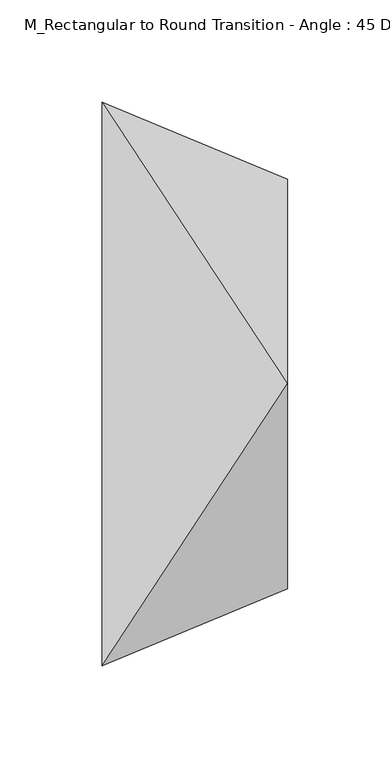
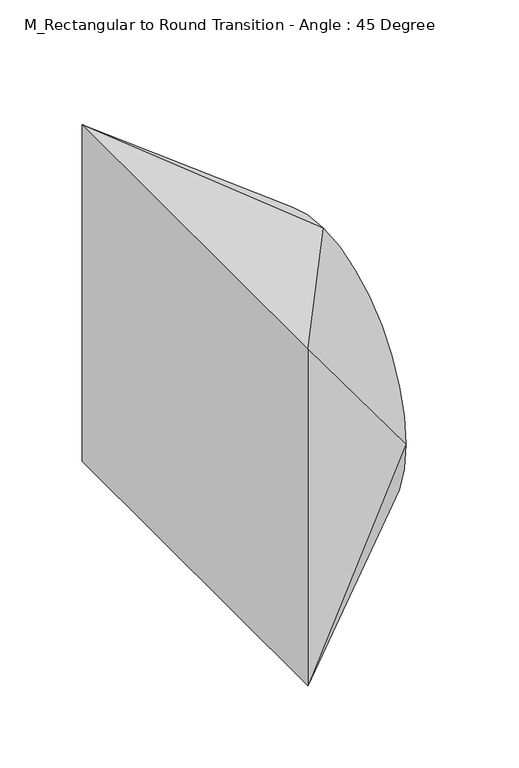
"""IFC4 building model written with IfcOpenShell, lengths in millimetres: duct fitting geometry, M_Rectangular to Round Transition - Angle : 45 Degree."""

from ifc_helpers import new_model, si_unit, frame, origin, place, context, project, spatial, circle_curve, source, transform, mapped, element, save
from ifc_brep_helpers import plane_surface, spline_surface, advanced_brep


def m_rectangular_to_round_transition_angle_45_degree_fab4045a(model_context):
    return source(origin(), model_context, "Body", "AdvancedBrep", [
        advanced_brep(
        [(0.0, -137.5, -125.0), (0.0, -137.5, 125.0), (0.0, 137.5, 125.0), (0.0, 137.5, -125.0), (90.5330086, -100.0, 0.0), (90.5330086, 0.0, -100.0), (90.5330086, 100.0, 0.0), (90.5330086, 0.0, 100.0)],
        [
            (0, 1),
            (1, 2),
            (2, 3),
            (3, 0),
            (4, 5, circle_curve(frame((90.5330086, 0.0, 0.0), z_axis=(1.0, 0.0, 0.0), x_axis=(0.0, -1.0, 0.0)), 100.0)),
            (5, 6, circle_curve(frame((90.5330086, 0.0, 0.0), z_axis=(1.0, 0.0, 0.0), x_axis=(0.0, -1.0, 0.0)), 100.0)),
            (6, 7, circle_curve(frame((90.5330086, 0.0, 0.0), z_axis=(1.0, 0.0, 0.0), x_axis=(0.0, -1.0, 0.0)), 100.0)),
            (7, 4, circle_curve(frame((90.5330086, 0.0, 0.0), z_axis=(1.0, 0.0, 0.0), x_axis=(0.0, -1.0, 0.0)), 100.0)),
            (0, 4),
            (4, 1),
            (7, 1),
            (7, 2),
            (6, 2),
            (6, 3),
            (5, 3),
            (5, 0),
        ],
        [
            plane_surface(frame((0.0, 0.0, 0.0), z_axis=(-1.0, 0.0, 0.0), x_axis=(0.0, 1.0, 0.0))),
            plane_surface(frame((90.5330086, 0.0, 0.0), z_axis=(1.0, 0.0, 0.0), x_axis=(0.0, 1.0, 0.0))),
            plane_surface(frame((90.5330086, -100.0, 0.0), z_axis=(0.3826834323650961, -0.9238795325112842, 0.0), x_axis=(0.0, 0.0, 1.0))),
            spline_surface(2, 1, [[(90.5330086, -100.0, 0.0), (0.0, -137.5, 125.0)], [(90.5330086, -100.0, 100.0), (0.0, -137.5, 125.0)], [(90.5330086, 0.0, 100.0), (0.0, -137.5, 125.0)]], [3, 3], [2, 2], [0.0, 1.0], [0.0, 1.0], weights=[[1.0, 1.0], [0.7071067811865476, 0.7071067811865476], [1.0, 1.0]]),
            plane_surface(frame((90.5330086, 0.0, 100.0), z_axis=(0.2661800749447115, 0.0, 0.9639233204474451), x_axis=(0.0, 1.0, 0.0))),
            spline_surface(2, 1, [[(90.5330086, 0.0, 100.0), (0.0, 137.5, 125.0)], [(90.5330086, 100.0, 100.0), (0.0, 137.5, 125.0)], [(90.5330086, 100.0, 0.0), (0.0, 137.5, 125.0)]], [3, 3], [2, 2], [0.0, 1.0], [0.0, 1.0], weights=[[1.0, 1.0], [0.7071067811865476, 0.7071067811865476], [1.0, 1.0]]),
            plane_surface(frame((90.5330086, 100.0, 0.0), z_axis=(0.38268343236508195, 0.9238795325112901, 0.0), x_axis=(0.0, 0.0, -1.0))),
            spline_surface(2, 1, [[(90.5330086, 100.0, 0.0), (0.0, 137.5, -125.0)], [(90.5330086, 100.0, -100.0), (0.0, 137.5, -125.0)], [(90.5330086, 0.0, -100.0), (0.0, 137.5, -125.0)]], [3, 3], [2, 2], [0.0, 1.0], [0.0, 1.0], weights=[[1.0, 1.0], [0.7071067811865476, 0.7071067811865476], [1.0, 1.0]]),
            plane_surface(frame((90.5330086, 0.0, -100.0), z_axis=(0.26618007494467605, 0.0, -0.9639233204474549), x_axis=(0.0, -1.0, 0.0))),
            spline_surface(2, 1, [[(90.5330086, 0.0, -100.0), (0.0, -137.5, -125.0)], [(90.5330086, -100.0, -100.0), (0.0, -137.5, -125.0)], [(90.5330086, -100.0, 0.0), (0.0, -137.5, -125.0)]], [3, 3], [2, 2], [0.0, 1.0], [0.0, 1.0], weights=[[1.0, 1.0], [0.7071067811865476, 0.7071067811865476], [1.0, 1.0]]),
        ],
        [
            (0, [[1, 2, 3, 4]]),
            (1, [[5, 6, 7, 8]]),
            (2, [[-1, 9, 10]]),
            (3, [[-8, 11, -10]]),
            (4, [[-2, -11, 12]]),
            (5, [[-7, 13, -12]]),
            (6, [[-3, -13, 14]]),
            (7, [[-6, 15, -14]]),
            (8, [[-4, -15, 16]]),
            (9, [[-5, -9, -16]]),
        ],
    ),
        advanced_brep(
        [(0.0, -137.5, -125.0), (0.0, -137.5, 125.0), (0.0, 137.5, 125.0), (0.0, 137.5, -125.0), (90.5330086, -100.0, 0.0), (90.5330086, 0.0, -100.0), (90.5330086, 100.0, 0.0), (90.5330086, 0.0, 100.0)],
        [
            (0, 1),
            (1, 2),
            (2, 3),
            (3, 0),
            (4, 5, circle_curve(frame((90.5330086, 0.0, 0.0), z_axis=(1.0, 0.0, 0.0), x_axis=(0.0, -1.0, 0.0)), 100.0)),
            (5, 6, circle_curve(frame((90.5330086, 0.0, 0.0), z_axis=(1.0, 0.0, 0.0), x_axis=(0.0, -1.0, 0.0)), 100.0)),
            (6, 7, circle_curve(frame((90.5330086, 0.0, 0.0), z_axis=(1.0, 0.0, 0.0), x_axis=(0.0, -1.0, 0.0)), 100.0)),
            (7, 4, circle_curve(frame((90.5330086, 0.0, 0.0), z_axis=(1.0, 0.0, 0.0), x_axis=(0.0, -1.0, 0.0)), 100.0)),
            (0, 4),
            (4, 1),
            (7, 1),
            (7, 2),
            (6, 2),
            (6, 3),
            (5, 3),
            (5, 0),
        ],
        [
            plane_surface(frame((0.0, 0.0, 0.0), z_axis=(-1.0, 0.0, 0.0), x_axis=(0.0, 1.0, 0.0))),
            plane_surface(frame((90.5330086, 0.0, 0.0), z_axis=(1.0, 0.0, 0.0), x_axis=(0.0, 1.0, 0.0))),
            plane_surface(frame((90.5330086, -100.0, 0.0), z_axis=(0.382683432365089, -0.9238795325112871, 0.0), x_axis=(0.0, 0.0, 1.0))),
            spline_surface(2, 1, [[(90.5330086, -100.0, 0.0), (0.0, -137.5, 125.0)], [(90.5330086, -100.0, 100.0), (0.0, -137.5, 125.0)], [(90.5330086, 0.0, 100.0), (0.0, -137.5, 125.0)]], [3, 3], [2, 2], [0.0, 1.0], [0.0, 1.0], weights=[[1.0, 1.0], [0.7071067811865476, 0.7071067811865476], [1.0, 1.0]]),
            plane_surface(frame((90.5330086, 0.0, 100.0), z_axis=(0.2661800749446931, 0.0, 0.9639233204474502), x_axis=(0.0, 1.0, 0.0))),
            spline_surface(2, 1, [[(90.5330086, 0.0, 100.0), (0.0, 137.5, 125.0)], [(90.5330086, 100.0, 100.0), (0.0, 137.5, 125.0)], [(90.5330086, 100.0, 0.0), (0.0, 137.5, 125.0)]], [3, 3], [2, 2], [0.0, 1.0], [0.0, 1.0], weights=[[1.0, 1.0], [0.7071067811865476, 0.7071067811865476], [1.0, 1.0]]),
            plane_surface(frame((90.5330086, 100.0, 0.0), z_axis=(0.38268343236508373, 0.9238795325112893, 0.0), x_axis=(0.0, 0.0, -1.0))),
            spline_surface(2, 1, [[(90.5330086, 100.0, 0.0), (0.0, 137.5, -125.0)], [(90.5330086, 100.0, -100.0), (0.0, 137.5, -125.0)], [(90.5330086, 0.0, -100.0), (0.0, 137.5, -125.0)]], [3, 3], [2, 2], [0.0, 1.0], [0.0, 1.0], weights=[[1.0, 1.0], [0.7071067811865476, 0.7071067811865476], [1.0, 1.0]]),
            plane_surface(frame((90.5330086, 0.0, -100.0), z_axis=(0.2661800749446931, 0.0, -0.9639233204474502), x_axis=(0.0, -1.0, 0.0))),
            spline_surface(2, 1, [[(90.5330086, 0.0, -100.0), (0.0, -137.5, -125.0)], [(90.5330086, -100.0, -100.0), (0.0, -137.5, -125.0)], [(90.5330086, -100.0, 0.0), (0.0, -137.5, -125.0)]], [3, 3], [2, 2], [0.0, 1.0], [0.0, 1.0], weights=[[1.0, 1.0], [0.7071067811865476, 0.7071067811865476], [1.0, 1.0]]),
        ],
        [
            (0, [[1, 2, 3, 4]]),
            (1, [[5, 6, 7, 8]]),
            (2, [[-1, 9, 10]]),
            (3, [[-8, 11, -10]]),
            (4, [[-2, -11, 12]]),
            (5, [[-7, 13, -12]]),
            (6, [[-3, -13, 14]]),
            (7, [[-6, 15, -14]]),
            (8, [[-4, -15, 16]]),
            (9, [[-5, -9, -16]]),
        ],
    ),
        advanced_brep(
        [(90.5330086, 0.0, 100.0), (90.5330086, -100.0, 0.0), (90.5330086, 0.0, -100.0), (90.5330086, 100.0, 0.0), (0.0, -137.5, 125.0), (0.0, 137.5, 125.0), (0.0, 137.5, -125.0), (0.0, -137.5, -125.0)],
        [
            (0, 1, circle_curve(frame((90.5330086, 0.0, 0.0), z_axis=(1.0, 0.0, 0.0), x_axis=(0.0, 1.0, 0.0)), 100.0)),
            (1, 2, circle_curve(frame((90.5330086, 0.0, 0.0), z_axis=(1.0, 0.0, 0.0), x_axis=(0.0, 1.0, 0.0)), 100.0)),
            (2, 3, circle_curve(frame((90.5330086, 0.0, 0.0), z_axis=(1.0, 0.0, 0.0), x_axis=(0.0, 1.0, 0.0)), 100.0)),
            (3, 0, circle_curve(frame((90.5330086, 0.0, 0.0), z_axis=(1.0, 0.0, 0.0), x_axis=(0.0, 1.0, 0.0)), 100.0)),
            (4, 5),
            (5, 6),
            (6, 7),
            (7, 4),
            (0, 4),
            (4, 1),
            (7, 1),
            (7, 2),
            (6, 2),
            (6, 3),
            (5, 3),
            (5, 0),
        ],
        [
            plane_surface(frame((90.5330086, 0.0, 0.0), z_axis=(1.0, 0.0, 0.0), x_axis=(0.0, 0.0, -1.0))),
            plane_surface(frame((0.0, 0.0, 0.0), z_axis=(-1.0, 0.0, 0.0), x_axis=(0.0, 0.0, -1.0))),
            spline_surface(2, 1, [[(0.0, -137.5, 125.0), (90.5330086, 0.0, 100.0)], [(0.0, -137.5, 125.0), (90.5330086, -100.0, 100.0)], [(0.0, -137.5, 125.0), (90.5330086, -100.0, 0.0)]], [3, 3], [2, 2], [0.0, 1.0], [0.0, 1.0], weights=[[1.0, 1.0], [0.7071067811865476, 0.7071067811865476], [1.0, 1.0]]),
            plane_surface(frame((0.0, -137.5, 0.0), z_axis=(0.382683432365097, -0.9238795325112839, 0.0), x_axis=(0.0, 0.0, -1.0))),
            spline_surface(2, 1, [[(0.0, -137.5, -125.0), (90.5330086, -100.0, 0.0)], [(0.0, -137.5, -125.0), (90.5330086, -100.0, -100.0)], [(0.0, -137.5, -125.0), (90.5330086, 0.0, -100.0)]], [3, 3], [2, 2], [0.0, 1.0], [0.0, 1.0], weights=[[1.0, 1.0], [0.7071067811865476, 0.7071067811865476], [1.0, 1.0]]),
            plane_surface(frame((0.0, 0.0, -125.0), z_axis=(0.26618007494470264, 0.0, -0.9639233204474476), x_axis=(0.0, 1.0, 0.0))),
            spline_surface(2, 1, [[(0.0, 137.5, -125.0), (90.5330086, 0.0, -100.0)], [(0.0, 137.5, -125.0), (90.5330086, 100.0, -100.0)], [(0.0, 137.5, -125.0), (90.5330086, 100.0, 0.0)]], [3, 3], [2, 2], [0.0, 1.0], [0.0, 1.0], weights=[[1.0, 1.0], [0.7071067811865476, 0.7071067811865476], [1.0, 1.0]]),
            plane_surface(frame((0.0, 137.5, 0.0), z_axis=(0.38268343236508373, 0.9238795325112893, 0.0), x_axis=(0.0, 0.0, 1.0))),
            spline_surface(2, 1, [[(0.0, 137.5, 125.0), (90.5330086, 100.0, 0.0)], [(0.0, 137.5, 125.0), (90.5330086, 100.0, 100.0)], [(0.0, 137.5, 125.0), (90.5330086, 0.0, 100.0)]], [3, 3], [2, 2], [0.0, 1.0], [0.0, 1.0], weights=[[1.0, 1.0], [0.7071067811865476, 0.7071067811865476], [1.0, 1.0]]),
            plane_surface(frame((0.0, 0.0, 125.0), z_axis=(0.26618007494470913, 0.0, 0.9639233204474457), x_axis=(0.0, -1.0, 0.0))),
        ],
        [
            (0, [[1, 2, 3, 4]]),
            (1, [[5, 6, 7, 8]]),
            (2, [[-1, 9, 10]]),
            (3, [[-8, 11, -10]]),
            (4, [[-2, -11, 12]]),
            (5, [[-7, 13, -12]]),
            (6, [[-3, -13, 14]]),
            (7, [[-6, 15, -14]]),
            (8, [[-4, -15, 16]]),
            (9, [[-5, -9, -16]]),
        ],
    ),
    ])


if __name__ == "__main__":
    model = new_model("IFC4")
    model_context = context("Model", 3, world=origin())
    ifc_project = project(units=[si_unit("LENGTHUNIT", "METRE", prefix="MILLI")], contexts=[model_context])
    site = spatial("IfcSite", under=ifc_project)
    building = spatial("IfcBuilding", under=site)
    placement = place(None, origin())
    m_rectangular_to_round_transition_angle_45_degree_shape = m_rectangular_to_round_transition_angle_45_degree_fab4045a(model_context)
    element("IfcDuctFitting", 1, ObjectType="M_Rectangular to Round Transition - Angle : 45 Degree", at=placement, inside=building, context=model_context, shape_type="MappedRepresentation", body=[
        mapped(m_rectangular_to_round_transition_angle_45_degree_shape, transform((0.0, 0.0, 0.0), x_axis=(1.0, 0.0, 0.0), y_axis=(0.0, 1.0, 0.0), z_axis=(0.0, 0.0, 1.0))),
    ])
    save(model, "model.ifc")
